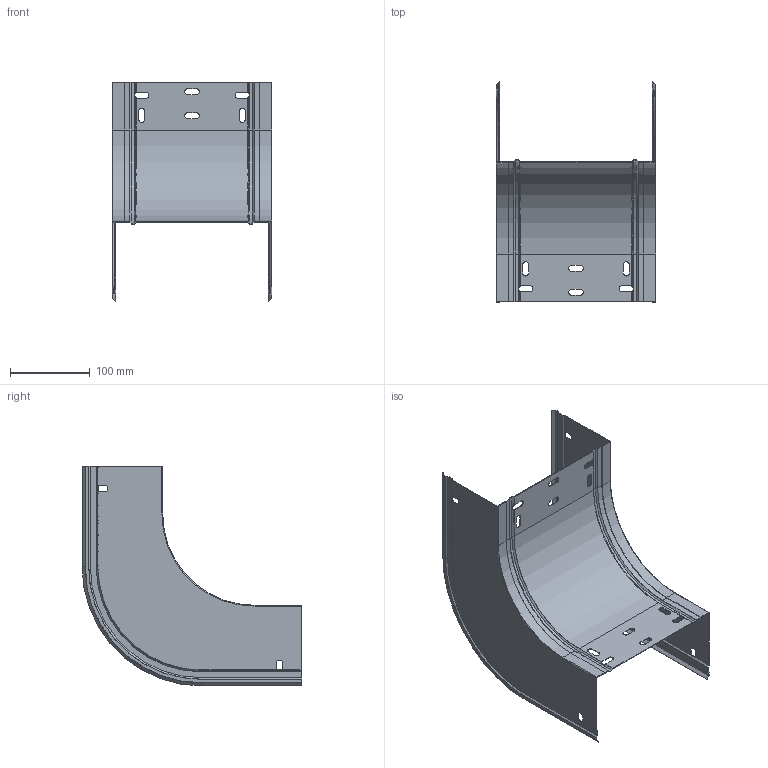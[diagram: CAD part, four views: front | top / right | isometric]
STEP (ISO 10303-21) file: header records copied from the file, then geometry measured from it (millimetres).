
FILE_DESCRIPTION (( 'STEP AP203' ), '1' );
FILE_NAME ('ERE_CONVEXA 200x100.step', '2023-07-27T18:49:33', ( '' ), ( '' ), 'SwSTEP 2.0', 'SolidWorks 2022', '' );
FILE_SCHEMA (( 'CONFIG_CONTROL_DESIGN' ));
Length unit declared in the file: millimetre
Products named in the file (3): ERE_CONVEXA 200x100; ERE_LATERAL CX_100; ERE_BASE CX_200
Assembly tree (3 placements, depth 2):
  ERE_CONVEXA 200x100
    ERE_BASE CX_200
    ERE_LATERAL CX_100  x2
Bounding box: 200 x 275.2 x 275.2 mm (x, y, z)
Volume: 125409.5 mm3; surface area: 316513.2 mm2
Topology: 3 solids, 3 shells, 232 faces, 632 edges, 394 vertices
Faces by surface type: plane 142, cylinder 64, cone 22, torus 4
Entity records: 5896 total; most frequent: CARTESIAN_POINT 1008, ORIENTED_EDGE 966, DIRECTION 957, EDGE_CURVE 483, LINE 343, VECTOR 343, AXIS2_PLACEMENT_3D 307, VERTEX_POINT 302
